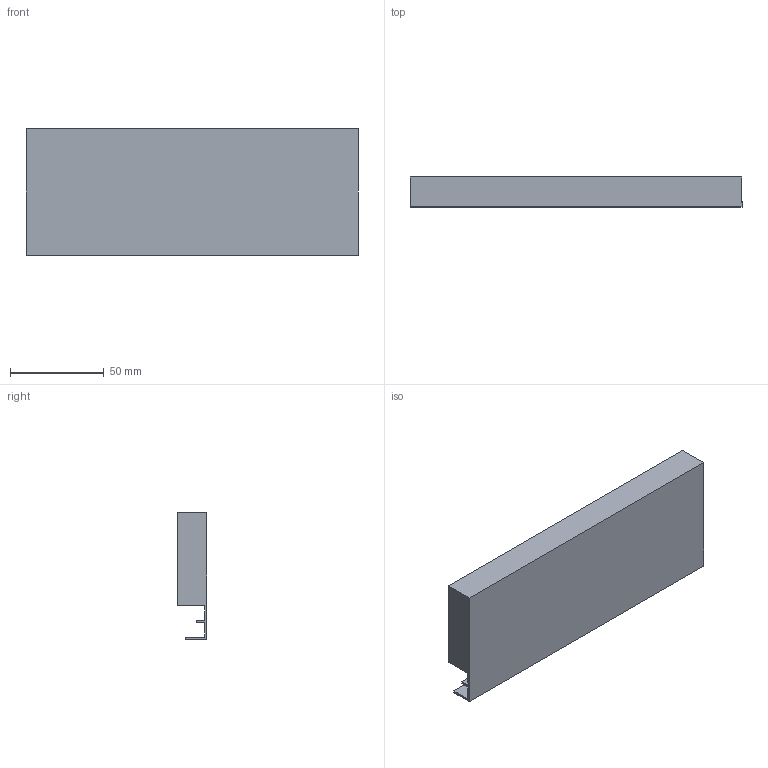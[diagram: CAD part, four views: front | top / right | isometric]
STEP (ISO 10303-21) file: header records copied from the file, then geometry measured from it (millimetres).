
FILE_DESCRIPTION (( 'STEP AP214' ), '1' );
FILE_NAME ('Innenschub-Blendenprofil_KAB300_S16.step', '2010-09-23T12:26:46', ( 'grass' ), ( '' ), 'SwSTEP 2.0', 'SolidWorks 2010', '' );
FILE_SCHEMA (( 'AUTOMOTIVE_DESIGN' ));
Length unit declared in the file: millimetre
Products named in the file (1): Innenschub-Blendenprofil_KAB300_S16
Bounding box: 177 x 15.9 x 67.6 mm (x, y, z)
Volume: 146726.2 mm3; surface area: 36420.4 mm2
Topology: 1 solids, 1 shells, 17 faces, 42 edges, 28 vertices
Faces by surface type: plane 15, cylinder 2
Entity records: 534 total; most frequent: CARTESIAN_POINT 88, ORIENTED_EDGE 84, DIRECTION 82, EDGE_CURVE 42, VECTOR 38, LINE 38, VERTEX_POINT 28, AXIS2_PLACEMENT_3D 22
